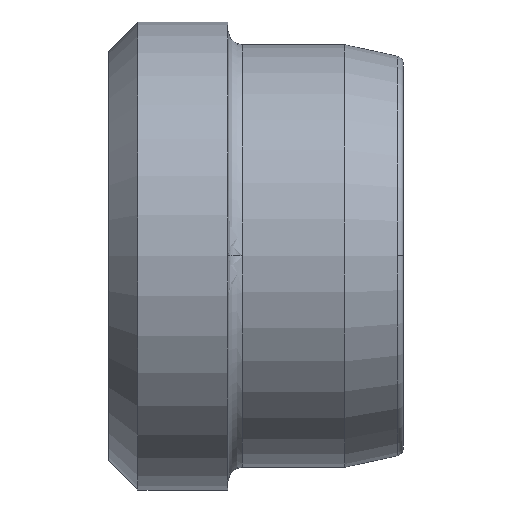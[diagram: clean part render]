
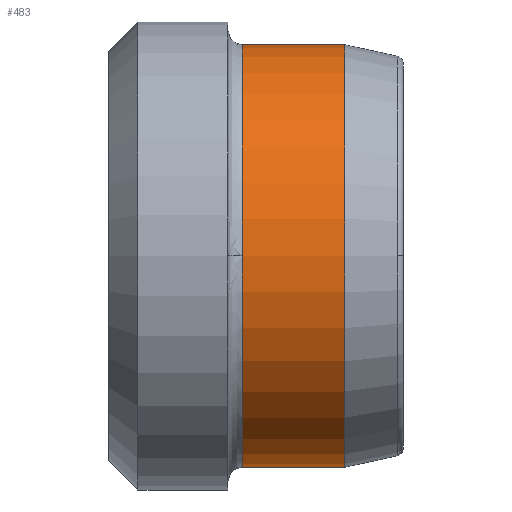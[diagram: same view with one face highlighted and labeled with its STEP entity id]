
A CAD part, top view. The second image highlights one B-rep face of the part: STEP entity #483.
In plain terms, the highlighted cylindrical face has radius 7.225 mm (diameter 14.45 mm), a partial arc.
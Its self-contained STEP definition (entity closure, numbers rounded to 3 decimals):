
#433=CARTESIAN_POINT('',(0.75,-1.633,0.0));
#434=DIRECTION('',(1.0,0.0,0.0));
#435=DIRECTION('',(0.0,1.0,0.0));
#436=AXIS2_PLACEMENT_3D('',#433,#434,#435);
#437=CYLINDRICAL_SURFACE('',#436,7.225);
#438=CARTESIAN_POINT('',(-0.75,5.592,0.0));
#439=VERTEX_POINT('',#438);
#440=CARTESIAN_POINT('',(2.75,5.592,0.0));
#441=VERTEX_POINT('',#440);
#442=CARTESIAN_POINT('',(-0.75,5.592,0.0));
#443=DIRECTION('',(1.0,0.0,0.0));
#444=VECTOR('',#443,3.5);
#445=LINE('',#442,#444);
#446=EDGE_CURVE('',#439,#441,#445,.T.);
#447=ORIENTED_EDGE('',*,*,#446,.F.);
#448=CARTESIAN_POINT('',(-0.75,-1.633,7.225));
#449=VERTEX_POINT('',#448);
#450=CARTESIAN_POINT('',(-0.75,-1.633,0.0));
#451=DIRECTION('',(-1.0,0.0,0.0));
#452=DIRECTION('',(0.0,-1.0,0.0));
#453=AXIS2_PLACEMENT_3D('',#450,#451,#452);
#454=CIRCLE('',#453,7.225);
#455=EDGE_CURVE('',#449,#439,#454,.T.);
#456=ORIENTED_EDGE('',*,*,#455,.F.);
#457=CARTESIAN_POINT('',(-0.75,-8.858,0.));
#458=VERTEX_POINT('',#457);
#459=CARTESIAN_POINT('',(-0.75,-1.633,0.0));
#460=DIRECTION('',(-1.0,0.0,0.0));
#461=DIRECTION('',(0.0,-1.0,0.0));
#462=AXIS2_PLACEMENT_3D('',#459,#460,#461);
#463=CIRCLE('',#462,7.225);
#464=EDGE_CURVE('',#458,#449,#463,.T.);
#465=ORIENTED_EDGE('',*,*,#464,.F.);
#466=CARTESIAN_POINT('',(2.75,-8.858,0.));
#467=VERTEX_POINT('',#466);
#468=CARTESIAN_POINT('',(2.75,-8.858,0.));
#469=DIRECTION('',(-1.0,0.0,0.0));
#470=VECTOR('',#469,3.5);
#471=LINE('',#468,#470);
#472=EDGE_CURVE('',#467,#458,#471,.T.);
#473=ORIENTED_EDGE('',*,*,#472,.F.);
#474=CARTESIAN_POINT('',(2.75,-1.633,0.0));
#475=DIRECTION('',(1.0,0.0,0.0));
#476=DIRECTION('',(0.0,1.0,0.0));
#477=AXIS2_PLACEMENT_3D('',#474,#475,#476);
#478=CIRCLE('',#477,7.225);
#479=EDGE_CURVE('',#441,#467,#478,.T.);
#480=ORIENTED_EDGE('',*,*,#479,.F.);
#481=EDGE_LOOP('',(#447,#456,#465,#473,#480));
#482=FACE_OUTER_BOUND('',#481,.T.);
#483=ADVANCED_FACE('',(#482),#437,.T.);
